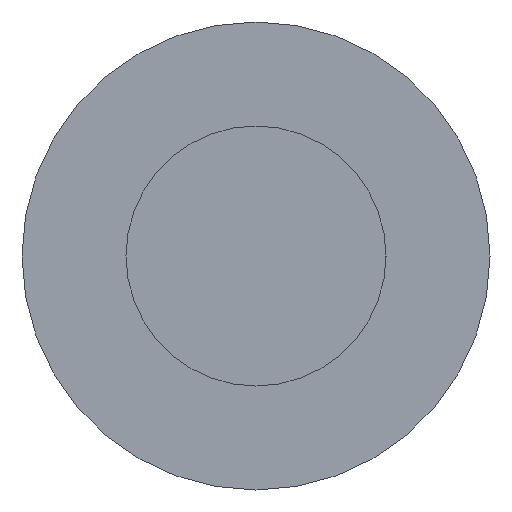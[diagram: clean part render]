
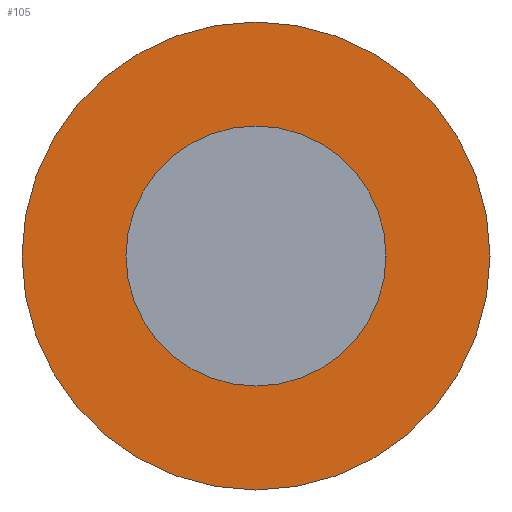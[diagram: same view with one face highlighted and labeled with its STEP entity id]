
A CAD part, left-side view. The second image highlights one B-rep face of the part: STEP entity #105.
In plain terms, the highlighted planar face has unit normal (-1, 0, 0).
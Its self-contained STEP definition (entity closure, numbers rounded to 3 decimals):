
#21 = EDGE_CURVE('',#22,#22,#24,.T.);
#22 = VERTEX_POINT('',#23);
#23 = CARTESIAN_POINT('',(4.407,0.,-2.25));
#24 = SURFACE_CURVE('',#25,(#30,#42),.PCURVE_S1.);
#25 = CIRCLE('',#26,2.25);
#26 = AXIS2_PLACEMENT_3D('',#27,#28,#29);
#27 = CARTESIAN_POINT('',(4.407,0.,0.));
#28 = DIRECTION('',(-1.,0.,0.));
#29 = DIRECTION('',(0.,0.,-1.));
#30 = PCURVE('',#31,#36);
#31 = CYLINDRICAL_SURFACE('',#32,2.25);
#32 = AXIS2_PLACEMENT_3D('',#33,#34,#35);
#33 = CARTESIAN_POINT('',(6.057,0.,0.));
#34 = DIRECTION('',(-1.,0.,0.));
#35 = DIRECTION('',(0.,0.,-1.));
#36 = DEFINITIONAL_REPRESENTATION('',(#37),#41);
#37 = LINE('',#38,#39);
#38 = CARTESIAN_POINT('',(0.,1.65));
#39 = VECTOR('',#40,1.);
#40 = DIRECTION('',(1.,0.));
#41 = ( GEOMETRIC_REPRESENTATION_CONTEXT(2) 
PARAMETRIC_REPRESENTATION_CONTEXT() REPRESENTATION_CONTEXT('2D SPACE',''
  ) );
#42 = PCURVE('',#43,#48);
#43 = PLANE('',#44);
#44 = AXIS2_PLACEMENT_3D('',#45,#46,#47);
#45 = CARTESIAN_POINT('',(4.407,0.,0.));
#46 = DIRECTION('',(-1.,0.,0.));
#47 = DIRECTION('',(0.,0.,-1.));
#48 = DEFINITIONAL_REPRESENTATION('',(#49),#53);
#49 = CIRCLE('',#50,2.25);
#50 = AXIS2_PLACEMENT_2D('',#51,#52);
#51 = CARTESIAN_POINT('',(0.,0.));
#52 = DIRECTION('',(1.,0.));
#53 = ( GEOMETRIC_REPRESENTATION_CONTEXT(2) 
PARAMETRIC_REPRESENTATION_CONTEXT() REPRESENTATION_CONTEXT('2D SPACE',''
  ) );
#105 = ADVANCED_FACE('',(#106,#109),#43,.T.);
#106 = FACE_BOUND('',#107,.T.);
#107 = EDGE_LOOP('',(#108));
#108 = ORIENTED_EDGE('',*,*,#21,.T.);
#109 = FACE_BOUND('',#110,.T.);
#110 = EDGE_LOOP('',(#111));
#111 = ORIENTED_EDGE('',*,*,#112,.F.);
#112 = EDGE_CURVE('',#113,#113,#115,.T.);
#113 = VERTEX_POINT('',#114);
#114 = CARTESIAN_POINT('',(4.407,0.,-1.25));
#115 = SURFACE_CURVE('',#116,(#121,#128),.PCURVE_S1.);
#116 = CIRCLE('',#117,1.25);
#117 = AXIS2_PLACEMENT_3D('',#118,#119,#120);
#118 = CARTESIAN_POINT('',(4.407,0.,0.));
#119 = DIRECTION('',(-1.,0.,0.));
#120 = DIRECTION('',(0.,0.,-1.));
#121 = PCURVE('',#43,#122);
#122 = DEFINITIONAL_REPRESENTATION('',(#123),#127);
#123 = CIRCLE('',#124,1.25);
#124 = AXIS2_PLACEMENT_2D('',#125,#126);
#125 = CARTESIAN_POINT('',(0.,0.));
#126 = DIRECTION('',(1.,0.));
#127 = ( GEOMETRIC_REPRESENTATION_CONTEXT(2) 
PARAMETRIC_REPRESENTATION_CONTEXT() REPRESENTATION_CONTEXT('2D SPACE',''
  ) );
#128 = PCURVE('',#129,#134);
#129 = CYLINDRICAL_SURFACE('',#130,1.25);
#130 = AXIS2_PLACEMENT_3D('',#131,#132,#133);
#131 = CARTESIAN_POINT('',(4.407,0.,0.));
#132 = DIRECTION('',(-1.,0.,0.));
#133 = DIRECTION('',(0.,0.,-1.));
#134 = DEFINITIONAL_REPRESENTATION('',(#135),#139);
#135 = LINE('',#136,#137);
#136 = CARTESIAN_POINT('',(0.,0.));
#137 = VECTOR('',#138,1.);
#138 = DIRECTION('',(1.,0.));
#139 = ( GEOMETRIC_REPRESENTATION_CONTEXT(2) 
PARAMETRIC_REPRESENTATION_CONTEXT() REPRESENTATION_CONTEXT('2D SPACE',''
  ) );
